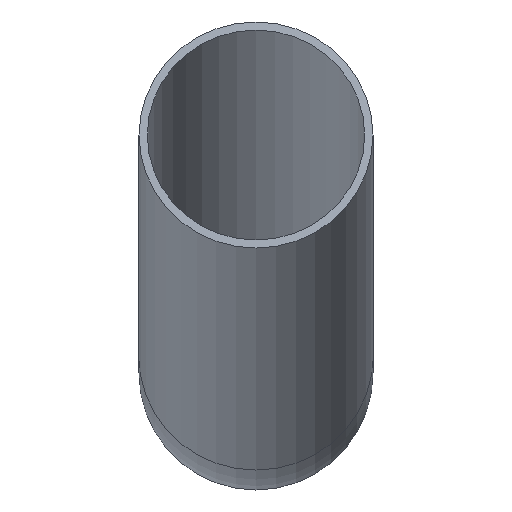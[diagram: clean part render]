
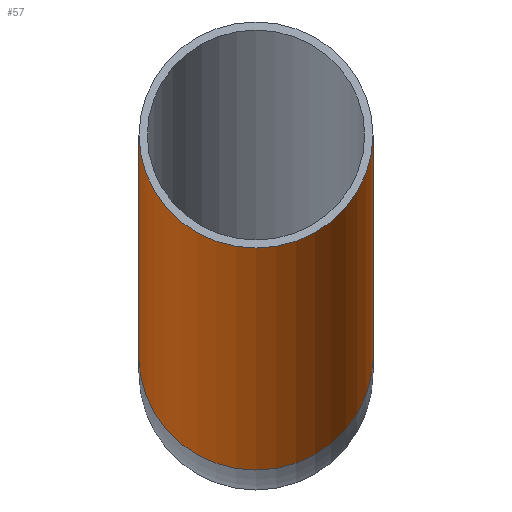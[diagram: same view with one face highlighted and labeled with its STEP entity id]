
A CAD part, front view. The second image highlights one B-rep face of the part: STEP entity #57.
In plain terms, the highlighted cylindrical face has radius 14 mm (diameter 28 mm), a full revolution.
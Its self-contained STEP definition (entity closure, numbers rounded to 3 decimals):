
#57=ADVANCED_FACE('',(#97,#99),#101,.T.);
#97=FACE_OUTER_BOUND('',#98,.T.);
#98=EDGE_LOOP('',(#141));
#99=FACE_OUTER_BOUND('',#100,.T.);
#100=EDGE_LOOP('',(#142));
#101=CYLINDRICAL_SURFACE('',#102,14.);
#102=AXIS2_PLACEMENT_3D('',#103,#104,#105);
#103=CARTESIAN_POINT('',(0.,-7.121,1.908));
#104=DIRECTION('',(0.,-0.966,0.259));
#105=DIRECTION('',(-1.,0.,0.));
#141=ORIENTED_EDGE('',*,*,#153,.T.);
#142=ORIENTED_EDGE('',*,*,#155,.F.);
#153=EDGE_CURVE('',#165,#165,#166,.T.);
#155=EDGE_CURVE('',#169,#169,#170,.T.);
#165=VERTEX_POINT('',#193);
#166=CIRCLE('',#194,14.);
#169=VERTEX_POINT('',#203);
#170=CIRCLE('',#204,14.);
#193=CARTESIAN_POINT('',(-14.,-7.121,1.908));
#194=AXIS2_PLACEMENT_3D('',#195,#196,#197);
#195=CARTESIAN_POINT('',(0.,-7.121,1.908));
#196=DIRECTION('',(0.,-0.966,0.259));
#197=DIRECTION('',(-1.,0.,0.));
#203=CARTESIAN_POINT('',(-14.,-106.252,28.47));
#204=AXIS2_PLACEMENT_3D('',#205,#206,#207);
#205=CARTESIAN_POINT('',(0.,-106.252,28.47));
#206=DIRECTION('',(0.,-0.966,0.259));
#207=DIRECTION('',(-1.,0.,0.));
